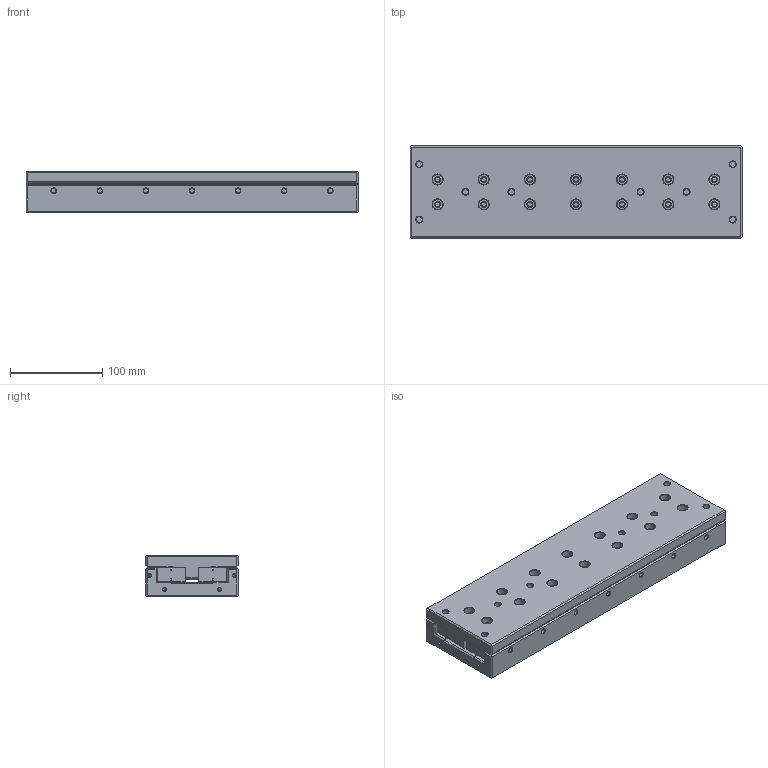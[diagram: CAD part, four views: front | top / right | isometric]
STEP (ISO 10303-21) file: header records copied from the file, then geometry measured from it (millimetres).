
FILE_DESCRIPTION(/* description */ (''),/* implementation_level */ '2;1');
FILE_NAME(/* name */ 'cru6360_stp_stp.stp',/* time_stamp */ '2017-02-28T09:44:34+08:00',/* author */ (''),/* organization */ (''),/* preprocessor_version */ 'ST-DEVELOPER v15',/* originating_system */ 'SIEMENS PLM Software NX 8.5',/* authorisation */ '');
FILE_SCHEMA (('AUTOMOTIVE_DESIGN { 1 0 10303 214 3 1 1 1 }'));
Length unit declared in the file: millimetre
Products named in the file (4): CRU6310-0270; CRU6310-GV630071; CRU6310-0172; cru6360_stp_stp
Assembly tree (4 placements, depth 2):
  cru6360_stp_stp
    CRU6310-0172
    CRU6310-GV630071  x2
    CRU6310-0270
Bounding box: 360 x 100 x 45 mm (x, y, z)
Volume: 1474702.1 mm3; surface area: 301827.4 mm2
Topology: 4 solids, 4 shells, 487 faces, 1286 edges, 861 vertices
Faces by surface type: plane 187, cylinder 160, cone 140
Full cylindrical faces by diameter (mm): 3.3 x8, 4.95 x1, 5 x49, 6.6 x36, 11 x64
Entity records: 10859 total; most frequent: DIRECTION 1933, CARTESIAN_POINT 1742, ORIENTED_EDGE 1408, EDGE_LOOP 852, AXIS2_PLACEMENT_3D 814, FACE_BOUND 765, EDGE_CURVE 704, VERTEX_POINT 595
